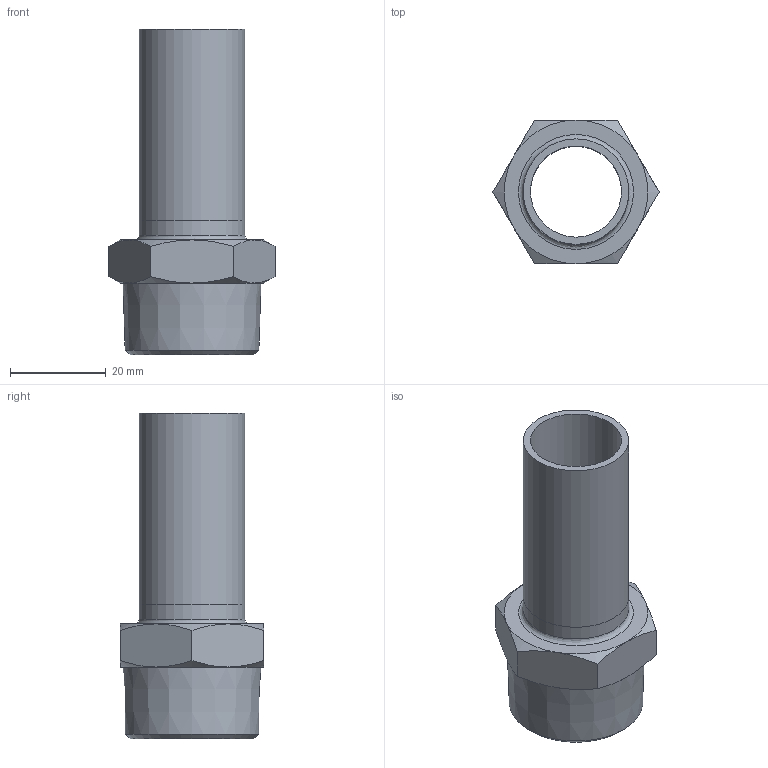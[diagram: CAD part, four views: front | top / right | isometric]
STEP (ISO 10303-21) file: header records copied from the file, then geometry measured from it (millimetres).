
FILE_DESCRIPTION((''),'2;1');
FILE_NAME('G:\Nirosan-Schmiedefeld\Technics\CAD\001 Serie 9.000\022\69280G2234H(0).stp','2017-06-22T14:55:50',('herberg'),(''),'Autodesk Inventor 2009','Autodesk Inventor 2009','');
FILE_SCHEMA(('AUTOMOTIVE_DESIGN { 1 0 10303 214 1 1 1 1 }'));
Length unit declared in the file: millimetre
Products named in the file (3): 69280G2234H(0); 69FXE22P(0); AG2234(1)
Assembly tree (2 placements, depth 2):
  69280G2234H(0)
    69FXE22P(0)
    AG2234(1)
Bounding box: 34.64 x 30 x 68 mm (x, y, z)
Volume: 12409.1 mm3; surface area: 10464.9 mm2
Topology: 2 solids, 2 shells, 33 faces, 67 edges, 40 vertices
Faces by surface type: cone 14, plane 12, bspline 4, cylinder 3
Full cylindrical faces by diameter (mm): 19 x1, 22 x2
Entity records: 939 total; most frequent: CARTESIAN_POINT 275, DIRECTION 126, ORIENTED_EDGE 112, AXIS2_PLACEMENT_3D 60, EDGE_CURVE 56, EDGE_LOOP 48, VERTEX_POINT 38, FACE_OUTER_BOUND 33
